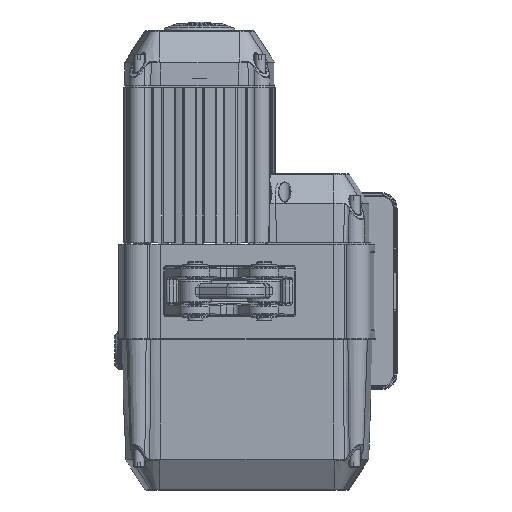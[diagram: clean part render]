
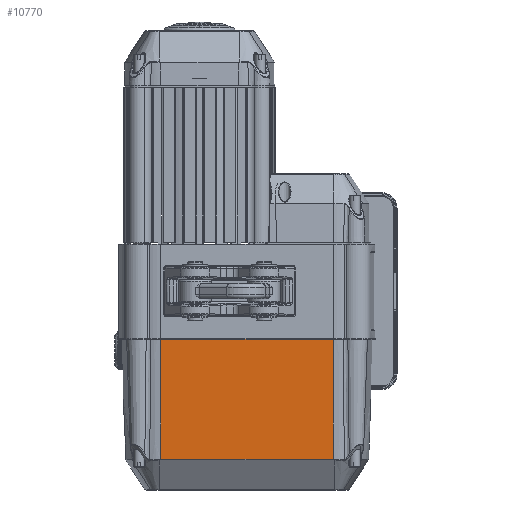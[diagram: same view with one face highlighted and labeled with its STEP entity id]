
A CAD part, front view. The second image highlights one B-rep face of the part: STEP entity #10770.
In plain terms, the highlighted planar face has unit normal (0, -0.999, -0.035).
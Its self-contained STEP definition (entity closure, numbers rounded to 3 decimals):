
#7955 = EDGE_LOOP ( 'NONE', ( #167567, #167568, #167569, #167570 ) ) ;
#10770 = ADVANCED_FACE ( 'NONE', ( #17505 ), #38762, .T. ) ;
#16455 = CARTESIAN_POINT ( 'NONE',  ( 106.721, -62.5, -38.5 ) ) ;
#16471 = CARTESIAN_POINT ( 'NONE',  ( -31.064, -59.166, -133.964 ) ) ;
#16923 = CARTESIAN_POINT ( 'NONE',  ( -31.064, -62.5, -38.5 ) ) ;
#16970 = CARTESIAN_POINT ( 'NONE',  ( 106.721, -59.166, -133.964 ) ) ;
#17505 = FACE_OUTER_BOUND ( 'NONE', #7955, .T. ) ;
#20972 = LINE ( 'NONE', #33181, #20975 ) ;
#20974 = LINE ( 'NONE', #33240, #20978 ) ;
#20975 = VECTOR ( 'NONE', #33176, 1000. ) ;
#20978 = VECTOR ( 'NONE', #33225, 1000. ) ;
#20979 = LINE ( 'NONE', #33281, #20980 ) ;
#20980 = VECTOR ( 'NONE', #33282, 1000. ) ;
#20982 = LINE ( 'NONE', #33291, #20983 ) ;
#20983 = VECTOR ( 'NONE', #33292, 1000. ) ;
#33176 = DIRECTION ( 'NONE',  ( 1., 0., 0. ) ) ;
#33181 = CARTESIAN_POINT ( 'NONE',  ( 106.721, -59.166, -133.964 ) ) ;
#33225 = DIRECTION ( 'NONE',  ( 0., -0.035, 0.999 ) ) ;
#33240 = CARTESIAN_POINT ( 'NONE',  ( -31.064, -62.5, -38.5 ) ) ;
#33281 = CARTESIAN_POINT ( 'NONE',  ( -31.064, -62.5, -38.5 ) ) ;
#33282 = DIRECTION ( 'NONE',  ( -1., 0., 0. ) ) ;
#33291 = CARTESIAN_POINT ( 'NONE',  ( 106.721, -62.5, -38.5 ) ) ;
#33292 = DIRECTION ( 'NONE',  ( 0., -0.035, 0.999 ) ) ;
#38760 = CARTESIAN_POINT ( 'NONE',  ( -31.064, -62.5, -38.5 ) ) ;
#38762 = PLANE ( 'NONE',  #165491 ) ;
#38764 = DIRECTION ( 'NONE',  ( 0., -0.999, -0.035 ) ) ;
#38765 = DIRECTION ( 'NONE',  ( 0., 0.035, -0.999 ) ) ;
#151602 = VERTEX_POINT ( 'NONE', #16455 ) ;
#151610 = VERTEX_POINT ( 'NONE', #16471 ) ;
#151952 = VERTEX_POINT ( 'NONE', #16923 ) ;
#151999 = VERTEX_POINT ( 'NONE', #16970 ) ;
#163920 = EDGE_CURVE ( 'NONE', #151610, #151999, #20972, .T. ) ;
#163945 = EDGE_CURVE ( 'NONE', #151610, #151952, #20974, .T. ) ;
#163949 = EDGE_CURVE ( 'NONE', #151602, #151952, #20979, .T. ) ;
#163958 = EDGE_CURVE ( 'NONE', #151999, #151602, #20982, .T. ) ;
#165491 = AXIS2_PLACEMENT_3D ( 'NONE', #38760, #38764, #38765 ) ;
#167567 = ORIENTED_EDGE ( 'NONE', *, *, #163945, .F. ) ;
#167568 = ORIENTED_EDGE ( 'NONE', *, *, #163920, .T. ) ;
#167569 = ORIENTED_EDGE ( 'NONE', *, *, #163958, .T. ) ;
#167570 = ORIENTED_EDGE ( 'NONE', *, *, #163949, .T. ) ;
